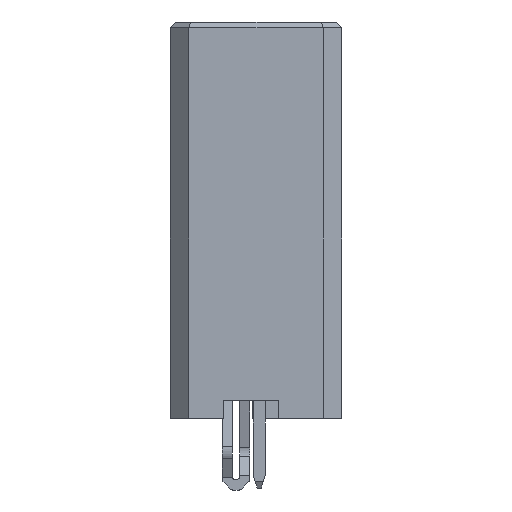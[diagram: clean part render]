
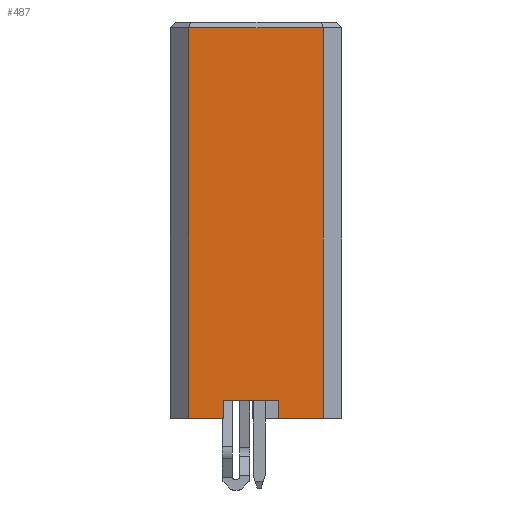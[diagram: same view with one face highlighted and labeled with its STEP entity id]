
A CAD part, left-side view. The second image highlights one B-rep face of the part: STEP entity #487.
In plain terms, the highlighted planar face has unit normal (-1, 0, 0).
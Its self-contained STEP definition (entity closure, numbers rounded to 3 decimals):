
#53 = ORIENTED_EDGE ( 'NONE', *, *, #18796, .T. ) ;
#129 = EDGE_CURVE ( 'NONE', #7530, #1708, #465, .T. ) ;
#465 = LINE ( 'NONE', #16873, #20299 ) ;
#487 = ADVANCED_FACE ( 'NONE', ( #23201 ), #18520, .T. ) ;
#721 = CARTESIAN_POINT ( 'NONE',  ( -17.16, -1.225, -21.6 ) ) ;
#927 = CARTESIAN_POINT ( 'NONE',  ( -17.16, 1.775, -21.6 ) ) ;
#1080 = EDGE_CURVE ( 'NONE', #14006, #1708, #22570, .T. ) ;
#1275 = CARTESIAN_POINT ( 'NONE',  ( -17.16, -1.225, -20.6 ) ) ;
#1442 = DIRECTION ( 'NONE',  ( 0., -1., 0. ) ) ;
#1708 = VERTEX_POINT ( 'NONE', #23139 ) ;
#1893 = VECTOR ( 'NONE', #14026, 1000. ) ;
#2068 = ORIENTED_EDGE ( 'NONE', *, *, #13773, .T. ) ;
#3207 = ORIENTED_EDGE ( 'NONE', *, *, #6147, .T. ) ;
#3452 = DIRECTION ( 'NONE',  ( 0., 0., 1. ) ) ;
#3653 = VERTEX_POINT ( 'NONE', #12805 ) ;
#3898 = VECTOR ( 'NONE', #3452, 1000. ) ;
#4607 = CARTESIAN_POINT ( 'NONE',  ( -17.16, 1.775, -20.6 ) ) ;
#4745 = LINE ( 'NONE', #1275, #14159 ) ;
#5156 = CARTESIAN_POINT ( 'NONE',  ( -17.16, -3.675, -0.3 ) ) ;
#5377 = ORIENTED_EDGE ( 'NONE', *, *, #15733, .F. ) ;
#5519 = DIRECTION ( 'NONE',  ( -1., 0., 0. ) ) ;
#5645 = ORIENTED_EDGE ( 'NONE', *, *, #129, .T. ) ;
#5682 = CARTESIAN_POINT ( 'NONE',  ( -17.16, -4.675, -21.6 ) ) ;
#5714 = EDGE_LOOP ( 'NONE', ( #17986, #3207, #19774, #5377, #53, #2068, #5645, #16940 ) ) ;
#6147 = EDGE_CURVE ( 'NONE', #16829, #7022, #21097, .T. ) ;
#6194 = VERTEX_POINT ( 'NONE', #5156 ) ;
#6222 = EDGE_CURVE ( 'NONE', #7022, #8656, #4745, .T. ) ;
#7022 = VERTEX_POINT ( 'NONE', #8146 ) ;
#7503 = LINE ( 'NONE', #4607, #11880 ) ;
#7530 = VERTEX_POINT ( 'NONE', #19605 ) ;
#7629 = CARTESIAN_POINT ( 'NONE',  ( -17.16, -4.675, -0.3 ) ) ;
#8146 = CARTESIAN_POINT ( 'NONE',  ( -17.16, -1.225, -20.6 ) ) ;
#8555 = DIRECTION ( 'NONE',  ( 0., 0., 1. ) ) ;
#8656 = VERTEX_POINT ( 'NONE', #721 ) ;
#8670 = VECTOR ( 'NONE', #20653, 1000. ) ;
#8952 = DIRECTION ( 'NONE',  ( 0., 0., -1. ) ) ;
#11339 = AXIS2_PLACEMENT_3D ( 'NONE', #5682, #5519, #8555 ) ;
#11880 = VECTOR ( 'NONE', #15631, 1000. ) ;
#12717 = LINE ( 'NONE', #22137, #3898 ) ;
#12805 = CARTESIAN_POINT ( 'NONE',  ( -17.16, -3.675, -21.6 ) ) ;
#13272 = VECTOR ( 'NONE', #17653, 1000. ) ;
#13773 = EDGE_CURVE ( 'NONE', #6194, #7530, #19746, .T. ) ;
#14006 = VERTEX_POINT ( 'NONE', #927 ) ;
#14026 = DIRECTION ( 'NONE',  ( 0., 1., 0. ) ) ;
#14159 = VECTOR ( 'NONE', #19931, 1000. ) ;
#14273 = CARTESIAN_POINT ( 'NONE',  ( -17.16, -4.675, -21.6 ) ) ;
#14352 = EDGE_CURVE ( 'NONE', #16829, #14006, #7503, .T. ) ;
#15631 = DIRECTION ( 'NONE',  ( 0., 0., -1. ) ) ;
#15733 = EDGE_CURVE ( 'NONE', #3653, #8656, #22312, .T. ) ;
#16247 = CARTESIAN_POINT ( 'NONE',  ( -17.16, 1.775, -20.6 ) ) ;
#16829 = VERTEX_POINT ( 'NONE', #20114 ) ;
#16873 = CARTESIAN_POINT ( 'NONE',  ( -17.16, 3.675, -21.6 ) ) ;
#16940 = ORIENTED_EDGE ( 'NONE', *, *, #1080, .F. ) ;
#17653 = DIRECTION ( 'NONE',  ( 0., 1., 0. ) ) ;
#17986 = ORIENTED_EDGE ( 'NONE', *, *, #14352, .F. ) ;
#18520 = PLANE ( 'NONE',  #11339 ) ;
#18796 = EDGE_CURVE ( 'NONE', #3653, #6194, #12717, .T. ) ;
#19605 = CARTESIAN_POINT ( 'NONE',  ( -17.16, 3.675, -0.3 ) ) ;
#19746 = LINE ( 'NONE', #7629, #8670 ) ;
#19774 = ORIENTED_EDGE ( 'NONE', *, *, #6222, .T. ) ;
#19931 = DIRECTION ( 'NONE',  ( 0., 0., -1. ) ) ;
#20114 = CARTESIAN_POINT ( 'NONE',  ( -17.16, 1.775, -20.6 ) ) ;
#20299 = VECTOR ( 'NONE', #8952, 1000. ) ;
#20653 = DIRECTION ( 'NONE',  ( 0., 1., 0. ) ) ;
#21097 = LINE ( 'NONE', #16247, #23994 ) ;
#22137 = CARTESIAN_POINT ( 'NONE',  ( -17.16, -3.675, 0. ) ) ;
#22312 = LINE ( 'NONE', #14273, #1893 ) ;
#22570 = LINE ( 'NONE', #23083, #13272 ) ;
#23083 = CARTESIAN_POINT ( 'NONE',  ( -17.16, -4.675, -21.6 ) ) ;
#23139 = CARTESIAN_POINT ( 'NONE',  ( -17.16, 3.675, -21.6 ) ) ;
#23201 = FACE_OUTER_BOUND ( 'NONE', #5714, .T. ) ;
#23994 = VECTOR ( 'NONE', #1442, 1000. ) ;
